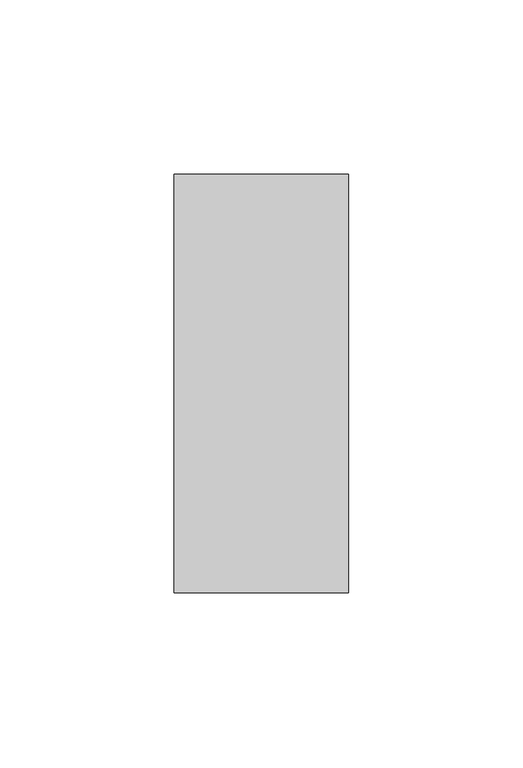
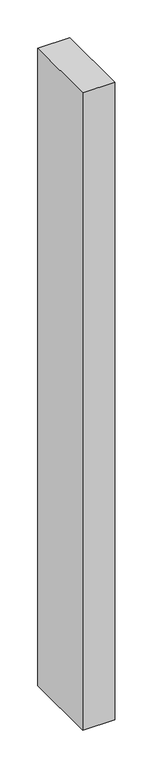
"""IFC4 building model written with IfcOpenShell, lengths in millimetres: member geometry, Прямоугольный импост : 50х120 мм."""

from ifc_helpers import new_model, si_unit, frame, origin, place, context, project, spatial, polyline, outline, extrude, source, transform, mapped, element, save


def member_955f90e7(model_context):
    return source(origin(), model_context, "Body", "SweptSolid", [
        extrude(outline(polyline([(25.0, 60.0), (25.0, -60.0), (-25.0, -60.0), (-25.0, 60.0), (25.0, 60.0)])), frame((0.0, 0.0, -1037.5), z_axis=(0.0, 0.0, 1.0), x_axis=(1.0, 0.0, 0.0)), (0.0, 0.0, 1.0), 1037.5),
    ])


if __name__ == "__main__":
    model = new_model("IFC4")
    model_context = context("Model", 3, world=origin())
    ifc_project = project(units=[si_unit("LENGTHUNIT", "METRE", prefix="MILLI")], contexts=[model_context])
    site = spatial("IfcSite", under=ifc_project)
    building = spatial("IfcBuilding", under=site)
    placement = place(None, origin())
    member_shape = member_955f90e7(model_context)
    element("IfcMember", 1, ObjectType="Прямоугольный импост : 50х120 мм", at=placement, inside=building, context=model_context, shape_type="MappedRepresentation", body=[
        mapped(member_shape, transform((0.0, 0.0, 0.0), x_axis=(1.0, 0.0, 0.0), y_axis=(0.0, 1.0, 0.0), z_axis=(0.0, 0.0, 1.0))),
    ])
    save(model, "model.ifc")
